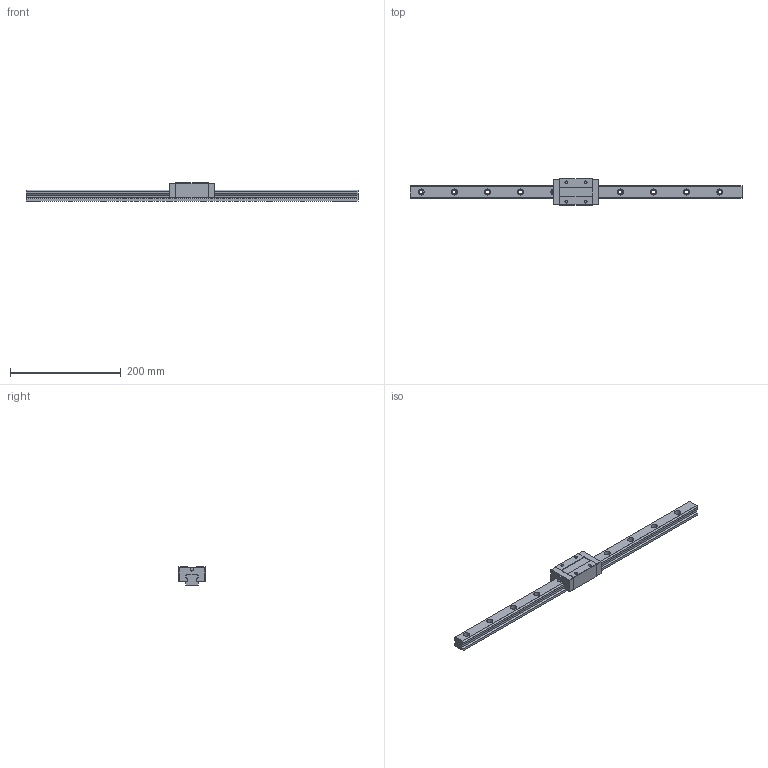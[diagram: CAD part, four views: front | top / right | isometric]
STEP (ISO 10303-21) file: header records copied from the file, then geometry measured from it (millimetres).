
FILE_DESCRIPTION (( 'STEP AP203' ), '1' );
FILE_NAME ('TRS25VN-XN-§ï.STEP', '2023-08-31T07:20:55', ( '' ), ( '' ), 'SwSTEP 2.0', 'SolidWorks 2022', '' );
FILE_SCHEMA (( 'CONFIG_CONTROL_DESIGN' ));
Length unit declared in the file: millimetre
Products named in the file (1): TRS25VN-XN-改
Bounding box: 600 x 48 x 33 mm (x, y, z)
Volume: 313854 mm3; surface area: 75944.1 mm2
Topology: 1 solids, 1 shells, 173 faces, 464 edges, 308 vertices
Faces by surface type: cylinder 88, plane 85
Entity records: 5581 total; most frequent: DIRECTION 990, CARTESIAN_POINT 946, ORIENTED_EDGE 928, EDGE_CURVE 464, AXIS2_PLACEMENT_3D 352, VERTEX_POINT 308, LINE 286, VECTOR 286
